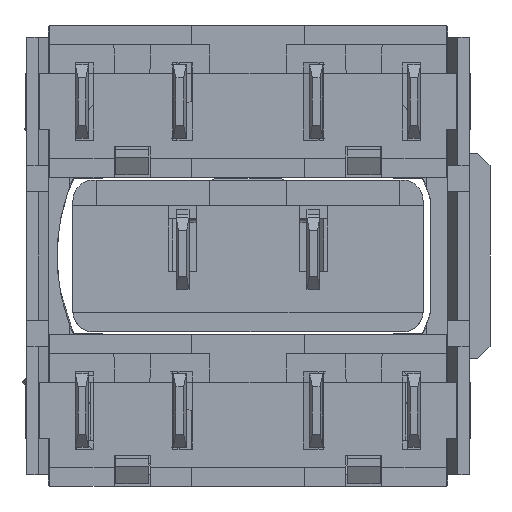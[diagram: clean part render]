
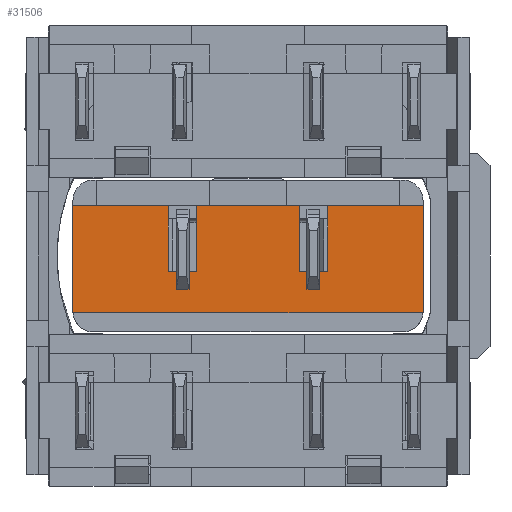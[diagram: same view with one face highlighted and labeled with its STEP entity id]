
A CAD part, front view. The second image highlights one B-rep face of the part: STEP entity #31506.
In plain terms, the highlighted planar face has unit normal (0, -1, 0).
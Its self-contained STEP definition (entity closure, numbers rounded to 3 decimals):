
#26936=DIRECTION('',(-1.,0.,0.));
#26937=VECTOR('',#26936,4.);
#26938=CARTESIAN_POINT('',(2.,-16.2,1.95));
#26939=LINE('',#26938,#26937);
#26964=DIRECTION('',(-1.,0.,0.));
#26965=VECTOR('',#26964,3.7);
#26966=CARTESIAN_POINT('',(6.8,-16.2,1.95));
#26967=LINE('',#26966,#26965);
#27094=DIRECTION('',(-1.,0.,0.));
#27095=VECTOR('',#27094,3.7);
#27096=CARTESIAN_POINT('',(-3.1,-16.2,1.95));
#27097=LINE('',#27096,#27095);
#27916=CARTESIAN_POINT('',(-6.,-16.2,-2.15));
#27917=DIRECTION('',(0.,-1.,0.));
#27918=DIRECTION('',(-1.,0.,0.));
#27919=AXIS2_PLACEMENT_3D('',#27916,#27917,#27918);
#27948=DIRECTION('',(0.,0.,-1.));
#27949=VECTOR('',#27948,4.1);
#27950=CARTESIAN_POINT('',(-6.8,-16.2,1.95));
#27951=LINE('',#27950,#27949);
#28144=DIRECTION('',(-1.,0.,0.));
#28145=VECTOR('',#28144,13.597);
#28146=CARTESIAN_POINT('',(6.798,-16.2,-2.2));
#28147=LINE('',#28146,#28145);
#28148=DIRECTION('',(0.,0.,-1.));
#28149=VECTOR('',#28148,2.55);
#28150=CARTESIAN_POINT('',(-3.1,-16.2,1.95));
#28151=LINE('',#28150,#28149);
#28152=DIRECTION('',(-1.,0.,0.));
#28153=VECTOR('',#28152,1.1);
#28154=CARTESIAN_POINT('',(-2.,-16.2,-0.6));
#28155=LINE('',#28154,#28153);
#28156=DIRECTION('',(0.,0.,-1.));
#28157=VECTOR('',#28156,2.55);
#28158=CARTESIAN_POINT('',(-2.,-16.2,1.95));
#28159=LINE('',#28158,#28157);
#28160=DIRECTION('',(0.,0.,-1.));
#28161=VECTOR('',#28160,2.55);
#28162=CARTESIAN_POINT('',(2.,-16.2,1.95));
#28163=LINE('',#28162,#28161);
#28164=DIRECTION('',(-1.,0.,0.));
#28165=VECTOR('',#28164,1.1);
#28166=CARTESIAN_POINT('',(3.1,-16.2,-0.6));
#28167=LINE('',#28166,#28165);
#28168=DIRECTION('',(0.,0.,-1.));
#28169=VECTOR('',#28168,2.55);
#28170=CARTESIAN_POINT('',(3.1,-16.2,1.95));
#28171=LINE('',#28170,#28169);
#28172=DIRECTION('',(0.,0.,-1.));
#28173=VECTOR('',#28172,4.1);
#28174=CARTESIAN_POINT('',(6.8,-16.2,1.95));
#28175=LINE('',#28174,#28173);
#28209=CARTESIAN_POINT('',(6.,-16.2,-2.15));
#28210=DIRECTION('',(0.,-1.,0.));
#28211=DIRECTION('',(0.998,0.,-0.063));
#28212=AXIS2_PLACEMENT_3D('',#28209,#28210,#28211);
#29431=CARTESIAN_POINT('',(6.798,-16.2,-2.2));
#29432=CARTESIAN_POINT('',(-6.798,-16.2,-2.2));
#29433=VERTEX_POINT('',#29431);
#29434=VERTEX_POINT('',#29432);
#29499=CARTESIAN_POINT('',(-2.,-16.2,1.95));
#29501=VERTEX_POINT('',#29499);
#29503=CARTESIAN_POINT('',(-3.1,-16.2,1.95));
#29505=VERTEX_POINT('',#29503);
#29507=CARTESIAN_POINT('',(3.1,-16.2,1.95));
#29509=VERTEX_POINT('',#29507);
#29511=CARTESIAN_POINT('',(2.,-16.2,1.95));
#29513=VERTEX_POINT('',#29511);
#29515=CARTESIAN_POINT('',(-2.,-16.2,-0.6));
#29516=VERTEX_POINT('',#29515);
#29517=CARTESIAN_POINT('',(-3.1,-16.2,-0.6));
#29518=VERTEX_POINT('',#29517);
#29519=CARTESIAN_POINT('',(3.1,-16.2,-0.6));
#29520=VERTEX_POINT('',#29519);
#29521=CARTESIAN_POINT('',(2.,-16.2,-0.6));
#29522=VERTEX_POINT('',#29521);
#29527=CARTESIAN_POINT('',(6.8,-16.2,1.95));
#29528=VERTEX_POINT('',#29527);
#29529=CARTESIAN_POINT('',(-6.8,-16.2,1.95));
#29530=VERTEX_POINT('',#29529);
#29663=CARTESIAN_POINT('',(6.8,-16.2,-2.15));
#29664=VERTEX_POINT('',#29663);
#29665=CARTESIAN_POINT('',(-6.8,-16.2,-2.15));
#29666=VERTEX_POINT('',#29665);
#31479=CARTESIAN_POINT('',(6.8,-16.2,1.95));
#31480=DIRECTION('',(0.,-1.,0.));
#31481=DIRECTION('',(-1.,0.,0.));
#31482=AXIS2_PLACEMENT_3D('',#31479,#31480,#31481);
#31483=PLANE('',#31482);
#31485=ORIENTED_EDGE('',*,*,#31484,.T.);
#31486=ORIENTED_EDGE('',*,*,#31215,.F.);
#31487=ORIENTED_EDGE('',*,*,#31242,.F.);
#31488=ORIENTED_EDGE('',*,*,#30219,.F.);
#31489=ORIENTED_EDGE('',*,*,#31457,.T.);
#31490=ORIENTED_EDGE('',*,*,#31467,.F.);
#31492=ORIENTED_EDGE('',*,*,#31491,.F.);
#31493=ORIENTED_EDGE('',*,*,#30104,.F.);
#31495=ORIENTED_EDGE('',*,*,#31494,.T.);
#31497=ORIENTED_EDGE('',*,*,#31496,.F.);
#31499=ORIENTED_EDGE('',*,*,#31498,.F.);
#31500=ORIENTED_EDGE('',*,*,#30126,.F.);
#31501=ORIENTED_EDGE('',*,*,#31332,.T.);
#31503=ORIENTED_EDGE('',*,*,#31502,.F.);
#31504=EDGE_LOOP('',(#31485,#31486,#31487,#31488,#31489,#31490,#31492,#31493,
#31495,#31497,#31499,#31500,#31501,#31503));
#31505=FACE_OUTER_BOUND('',#31504,.F.);
#31506=ADVANCED_FACE('',(#31505),#31483,.T.);
#27920=CIRCLE('',#27919,0.8);
#28213=CIRCLE('',#28212,0.8);
#30104=EDGE_CURVE('',#29513,#29501,#26939,.T.);
#30126=EDGE_CURVE('',#29528,#29509,#26967,.T.);
#30219=EDGE_CURVE('',#29505,#29530,#27097,.T.);
#31215=EDGE_CURVE('',#29666,#29434,#27920,.T.);
#31242=EDGE_CURVE('',#29530,#29666,#27951,.T.);
#31332=EDGE_CURVE('',#29528,#29664,#28175,.T.);
#31457=EDGE_CURVE('',#29505,#29518,#28151,.T.);
#31467=EDGE_CURVE('',#29516,#29518,#28155,.T.);
#31484=EDGE_CURVE('',#29433,#29434,#28147,.T.);
#31491=EDGE_CURVE('',#29501,#29516,#28159,.T.);
#31494=EDGE_CURVE('',#29513,#29522,#28163,.T.);
#31496=EDGE_CURVE('',#29520,#29522,#28167,.T.);
#31498=EDGE_CURVE('',#29509,#29520,#28171,.T.);
#31502=EDGE_CURVE('',#29433,#29664,#28213,.T.);
